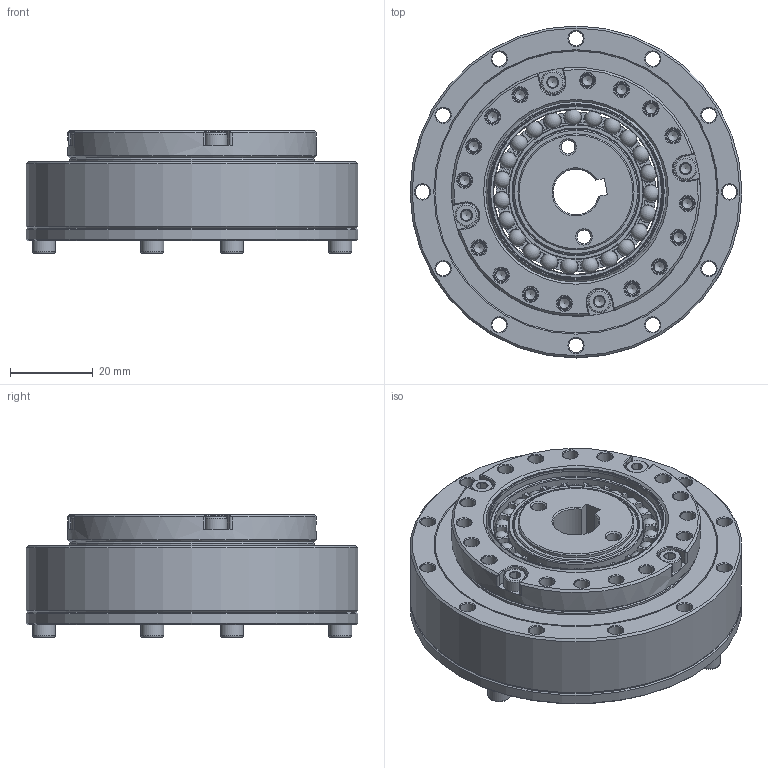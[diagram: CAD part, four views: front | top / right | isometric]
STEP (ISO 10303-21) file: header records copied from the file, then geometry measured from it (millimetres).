
FILE_DESCRIPTION(/* description */ (''),/* implementation_level */ '2;1');
FILE_NAME(/* name */ 'FHG-17-XX-U-I（孔径11）.stp',/* time_stamp */ '2025-02-22T16:34:51+08:00',/* author */ (''),/* organization */ (''),/* preprocessor_version */ 'ST-DEVELOPER v16.7',/* originating_system */ 'SIEMENS PLM Software NX 12.0',/* authorisation */ '');
FILE_SCHEMA (('AUTOMOTIVE_DESIGN { 1 0 10303 214 3 1 1 1 }'));
Length unit declared in the file: millimetre
Products named in the file (14): EB304206-17KCH-46248; EB304206-17KCH-04249; EB304206-17KCH-02250; EB304206-17KCH-01251; TC-59x68x5252; GB-T70.1-2000,M3x8253; O型密封圈49.6-47-0.75254; O型密封圈68.8-65-1.1255; 发生器FSG-17-XXDL-直径11_stp25
6; 刚轮FHG-17-I257; 柔轮FHG-17258; EB304206-17KCH_stp259; 交叉轴承LHT-17260; FHG-17-XX-U-I（孔径11）_stp
Assembly tree (20 placements, depth 3):
  FHG-17-XX-U-I（孔径11）_stp
    柔轮FHG-17258
    交叉轴承LHT-17260
      TC-59x68x5252
    刚轮FHG-17-I257
    发生器FSG-17-XXDL-直径11_stp25
6
    EB304206-17KCH_stp259
      EB304206-17KCH-01251
      EB304206-17KCH-02250
      EB304206-17KCH-04249
      EB304206-17KCH-46248
    O型密封圈68.8-65-1.1255
    O型密封圈49.6-47-0.75254
    GB-T70.1-2000,M3x8253  x8
Bounding box: 80 x 80 x 29.5 mm (x, y, z)
Volume: 71286.7 mm3; surface area: 62297.9 mm2
Topology: 42 solids, 42 shells, 811 faces, 1879 edges, 1134 vertices
Faces by surface type: cone 267, plane 231, cylinder 202, torus 86, sphere 23, bspline 2
Full cylindrical faces by diameter (mm): 2.5 x28, 2.874 x8, 3.3 x2, 3.5 x52, 5.5 x8, 16 x1, 28 x1, 28.8 x1, 30.3 x2, 32.57 x2, 33.6 x1, 37 x1, 38.4 x1, 39.7 x2, 41.722 x2, 42.2 x1, 43.327 x1, 43.57 x1, 44.1 x1, 47 x3, 47.4 x1, 49.6 x2, 55.8 x1, 58.6 x1, 59 x2, 60 x2, 61.3 x2, 62.3 x2, 65 x2, 67.8 x1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
Entity records: 19527 total; most frequent: CARTESIAN_POINT 4943, DIRECTION 2921, ORIENTED_EDGE 2064, AXIS2_PLACEMENT_3D 1370, EDGE_LOOP 1096, EDGE_CURVE 1032, FACE_BOUND 943, VERTEX_POINT 876
